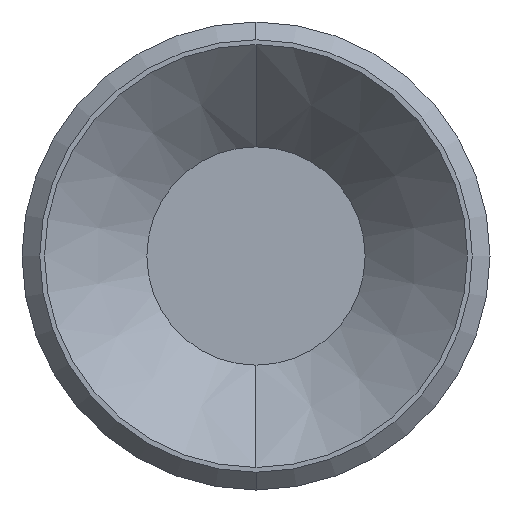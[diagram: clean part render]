
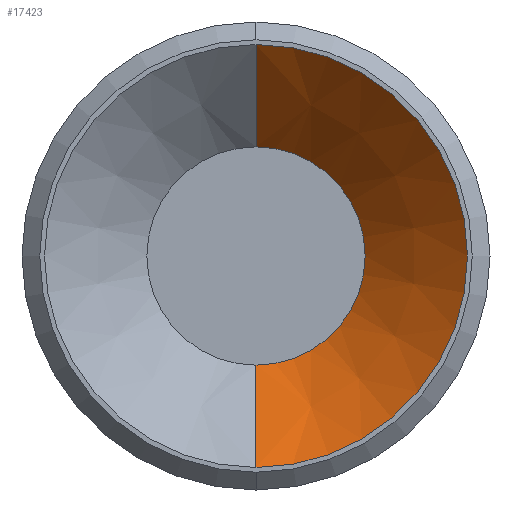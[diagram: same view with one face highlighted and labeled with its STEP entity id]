
A CAD part, left-side view. The second image highlights one B-rep face of the part: STEP entity #17423.
In plain terms, the highlighted conical face has half-angle 45 degrees and reference radius 2.032 mm.
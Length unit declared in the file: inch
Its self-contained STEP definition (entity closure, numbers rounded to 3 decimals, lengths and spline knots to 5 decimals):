
#254 = DIRECTION ( 'NONE',  ( -0.707, 0., -0.707 ) ) ;
#873 = ORIENTED_EDGE ( 'NONE', *, *, #12723, .F. ) ;
#893 = CARTESIAN_POINT ( 'NONE',  ( 0.075, 0., 0.08 ) ) ;
#1467 = CARTESIAN_POINT ( 'NONE',  ( 0.075, 0., 0. ) ) ;
#2205 = VECTOR ( 'NONE', #10085, 39.37008 ) ;
#2306 = DIRECTION ( 'NONE',  ( 0., 0., 1. ) ) ;
#2937 = EDGE_CURVE ( 'NONE', #11013, #15772, #16893, .T. ) ;
#3251 = CARTESIAN_POINT ( 'NONE',  ( 0.075, 0., -0.08 ) ) ;
#3620 = CONICAL_SURFACE ( 'NONE', #10636, 0.08, 0.785 ) ;
#4095 = CARTESIAN_POINT ( 'NONE',  ( 0.075, 0., 0.08 ) ) ;
#4838 = DIRECTION ( 'NONE',  ( 0., 0., 1. ) ) ;
#5062 = LINE ( 'NONE', #893, #2205 ) ;
#5327 = CARTESIAN_POINT ( 'NONE',  ( 0., 0., -0.155 ) ) ;
#6073 = DIRECTION ( 'NONE',  ( 0., 0., 1. ) ) ;
#6353 = CARTESIAN_POINT ( 'NONE',  ( 0.075, 0., -0.08 ) ) ;
#7027 = EDGE_CURVE ( 'NONE', #15772, #16220, #19176, .T. ) ;
#7309 = CIRCLE ( 'NONE', #7963, 0.08 ) ;
#7923 = CARTESIAN_POINT ( 'NONE',  ( 0.075, 0., 0. ) ) ;
#7963 = AXIS2_PLACEMENT_3D ( 'NONE', #1467, #10438, #6073 ) ;
#8013 = DIRECTION ( 'NONE',  ( -1., 0., 0. ) ) ;
#8192 = EDGE_CURVE ( 'NONE', #11013, #9546, #7309, .T. ) ;
#9196 = CARTESIAN_POINT ( 'NONE',  ( 0., 0., 0.155 ) ) ;
#9546 = VERTEX_POINT ( 'NONE', #4095 ) ;
#10085 = DIRECTION ( 'NONE',  ( -0.707, 0., 0.707 ) ) ;
#10438 = DIRECTION ( 'NONE',  ( -1., 0., 0. ) ) ;
#10636 = AXIS2_PLACEMENT_3D ( 'NONE', #7923, #8013, #4838 ) ;
#11013 = VERTEX_POINT ( 'NONE', #6353 ) ;
#11345 = EDGE_LOOP ( 'NONE', ( #15215, #19001, #19122, #873 ) ) ;
#12723 = EDGE_CURVE ( 'NONE', #9546, #16220, #5062, .T. ) ;
#13471 = AXIS2_PLACEMENT_3D ( 'NONE', #17414, #18995, #2306 ) ;
#15215 = ORIENTED_EDGE ( 'NONE', *, *, #8192, .F. ) ;
#15772 = VERTEX_POINT ( 'NONE', #5327 ) ;
#16220 = VERTEX_POINT ( 'NONE', #9196 ) ;
#16313 = VECTOR ( 'NONE', #254, 39.37008 ) ;
#16893 = LINE ( 'NONE', #3251, #16313 ) ;
#17414 = CARTESIAN_POINT ( 'NONE',  ( 0., 0., 0. ) ) ;
#17423 = ADVANCED_FACE ( 'NONE', ( #18524 ), #3620, .F. ) ;
#18524 = FACE_OUTER_BOUND ( 'NONE', #11345, .T. ) ;
#18995 = DIRECTION ( 'NONE',  ( -1., 0., 0. ) ) ;
#19001 = ORIENTED_EDGE ( 'NONE', *, *, #2937, .T. ) ;
#19122 = ORIENTED_EDGE ( 'NONE', *, *, #7027, .T. ) ;
#19176 = CIRCLE ( 'NONE', #13471, 0.155 ) ;
